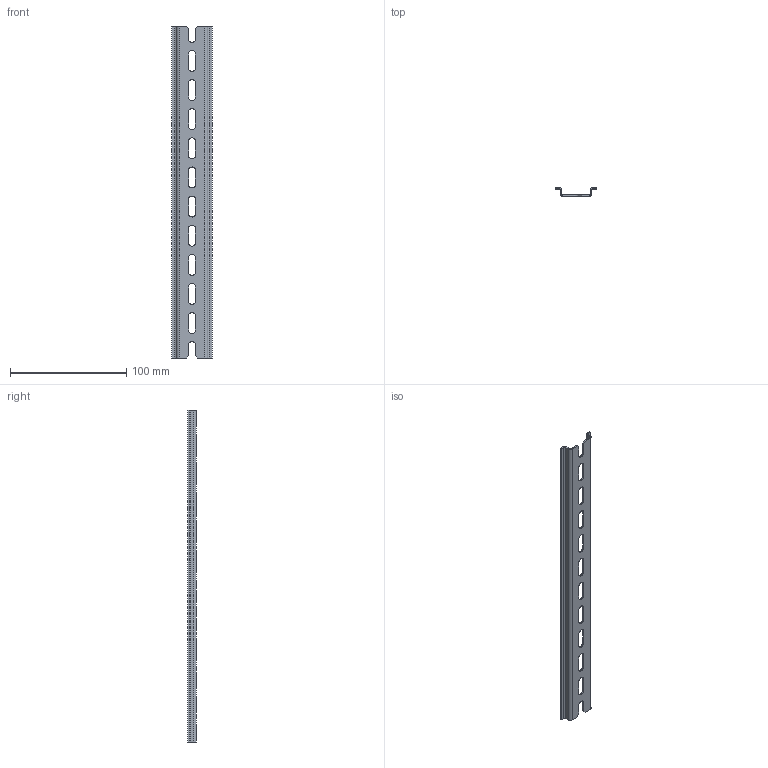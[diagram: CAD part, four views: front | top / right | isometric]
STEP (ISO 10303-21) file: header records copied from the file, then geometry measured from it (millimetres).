
FILE_DESCRIPTION (( 'STEP AP214' ), '1' );
FILE_NAME ('DR 07.285 DIN-ðåéêà.STEP', '2022-09-12T11:18:57', ( '' ), ( '' ), 'SwSTEP 2.0', 'SolidWorks 2018', '' );
FILE_SCHEMA (( 'AUTOMOTIVE_DESIGN' ));
Length unit declared in the file: millimetre
Products named in the file (1): DR 07.285 DIN-ðåéêà
Bounding box: 34.8 x 7.5 x 285 mm (x, y, z)
Volume: 13748.7 mm3; surface area: 24274.4 mm2
Topology: 1 solids, 1 shells, 101 faces, 265 edges, 166 vertices
Faces by surface type: plane 60, cylinder 41
Entity records: 3159 total; most frequent: DIRECTION 551, CARTESIAN_POINT 533, ORIENTED_EDGE 530, EDGE_CURVE 265, AXIS2_PLACEMENT_3D 184, LINE 183, VECTOR 183, VERTEX_POINT 166
